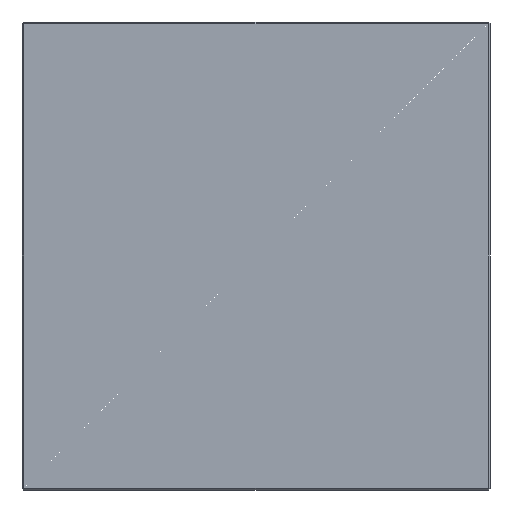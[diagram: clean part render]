
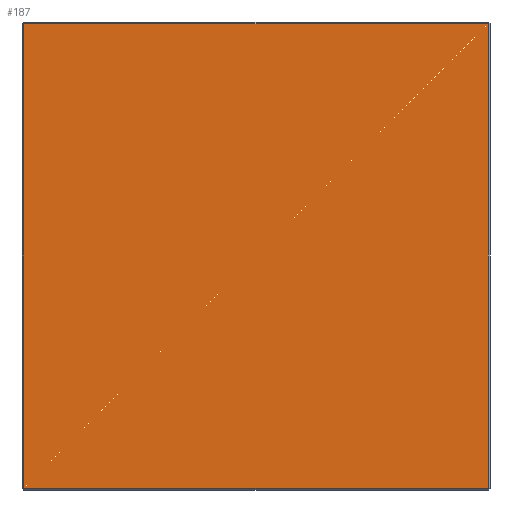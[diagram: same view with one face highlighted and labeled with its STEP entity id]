
A CAD part, front view. The second image highlights one B-rep face of the part: STEP entity #187.
In plain terms, the highlighted planar face has unit normal (0, -1, 0).
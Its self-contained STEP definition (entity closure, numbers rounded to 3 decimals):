
#55 = CARTESIAN_POINT ( 'NONE',  ( -122., 0., 0. ) ) ;
#85 = PLANE ( 'NONE',  #432 ) ;
#106 = CARTESIAN_POINT ( 'NONE',  ( -122., 0., 122. ) ) ;
#113 = DIRECTION ( 'NONE',  ( 0., 0., -1. ) ) ;
#122 = LINE ( 'NONE', #55, #385 ) ;
#124 = DIRECTION ( 'NONE',  ( 0., 1., 0. ) ) ;
#131 = DIRECTION ( 'NONE',  ( 0., 0., 1. ) ) ;
#142 = CARTESIAN_POINT ( 'NONE',  ( 122., 0., 122. ) ) ;
#154 = ORIENTED_EDGE ( 'NONE', *, *, #508, .T. ) ;
#157 = VECTOR ( 'NONE', #438, 1000. ) ;
#187 = ADVANCED_FACE ( 'NONE', ( #208 ), #85, .F. ) ;
#208 = FACE_OUTER_BOUND ( 'NONE', #383, .T. ) ;
#233 = VECTOR ( 'NONE', #131, 1000. ) ;
#238 = LINE ( 'NONE', #290, #233 ) ;
#245 = EDGE_CURVE ( 'NONE', #323, #546, #623, .T. ) ;
#263 = VERTEX_POINT ( 'NONE', #142 ) ;
#290 = CARTESIAN_POINT ( 'NONE',  ( 122., 0., 0. ) ) ;
#293 = DIRECTION ( 'NONE',  ( 1., 0., 0. ) ) ;
#323 = VERTEX_POINT ( 'NONE', #504 ) ;
#331 = CARTESIAN_POINT ( 'NONE',  ( 122., 0., -122. ) ) ;
#383 = EDGE_LOOP ( 'NONE', ( #639, #544, #154, #536 ) ) ;
#385 = VECTOR ( 'NONE', #113, 1000. ) ;
#392 = EDGE_CURVE ( 'NONE', #263, #435, #540, .T. ) ;
#418 = CARTESIAN_POINT ( 'NONE',  ( 0., 0., 122. ) ) ;
#423 = CARTESIAN_POINT ( 'NONE',  ( 0., 0., 0. ) ) ;
#432 = AXIS2_PLACEMENT_3D ( 'NONE', #423, #124, #521 ) ;
#435 = VERTEX_POINT ( 'NONE', #106 ) ;
#438 = DIRECTION ( 'NONE',  ( -1., 0., 0. ) ) ;
#477 = VECTOR ( 'NONE', #293, 1000. ) ;
#489 = CARTESIAN_POINT ( 'NONE',  ( 0., 0., -122. ) ) ;
#504 = CARTESIAN_POINT ( 'NONE',  ( -122., 0., -122. ) ) ;
#508 = EDGE_CURVE ( 'NONE', #435, #323, #122, .T. ) ;
#521 = DIRECTION ( 'NONE',  ( 0., 0., 1. ) ) ;
#536 = ORIENTED_EDGE ( 'NONE', *, *, #245, .T. ) ;
#540 = LINE ( 'NONE', #418, #157 ) ;
#544 = ORIENTED_EDGE ( 'NONE', *, *, #392, .T. ) ;
#546 = VERTEX_POINT ( 'NONE', #331 ) ;
#574 = EDGE_CURVE ( 'NONE', #546, #263, #238, .T. ) ;
#623 = LINE ( 'NONE', #489, #477 ) ;
#639 = ORIENTED_EDGE ( 'NONE', *, *, #574, .T. ) ;
